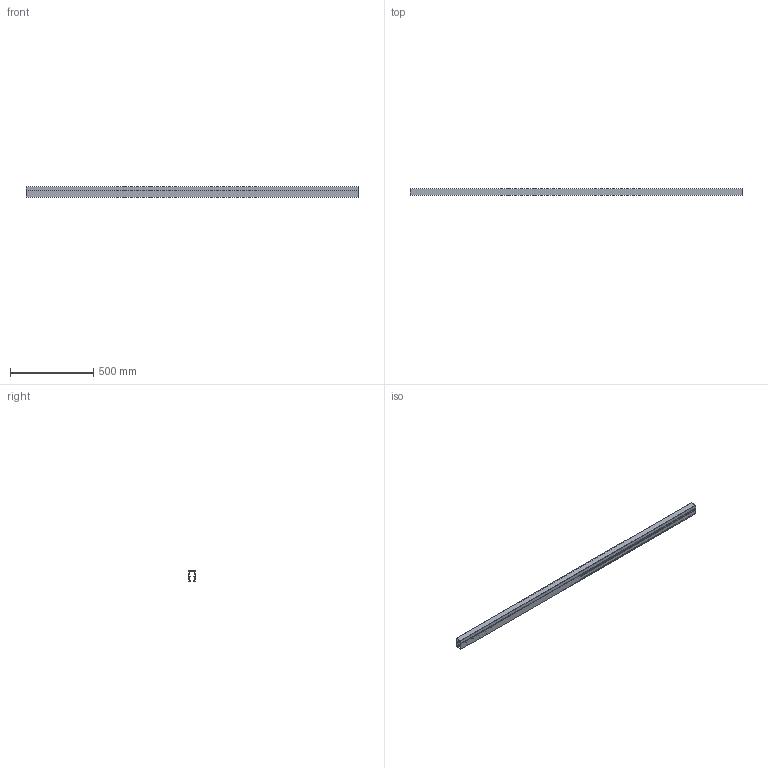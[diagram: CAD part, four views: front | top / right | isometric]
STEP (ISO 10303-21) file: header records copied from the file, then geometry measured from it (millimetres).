
FILE_DESCRIPTION(('STEP AP242'),'1');
FILE_NAME('OPO_65.084.01_volu_schn_3d.stp','2026-02-23T17:27:44',(' '),(' '),'Spatial InterOp 3D',' ',' ');
FILE_SCHEMA(('AP242_MANAGED_MODEL_BASED_3D_ENGINEERING_MIM_LF {1 0 10303 442 1 1 4}'));
Length unit declared in the file: millimetre
Products named in the file (1): 1
Bounding box: 2000 x 40 x 64.5 mm (x, y, z)
Volume: 1181500 mm3; surface area: 811748.6 mm2
Topology: 1 solids, 1 shells, 90 faces, 2742 edges, 5075 vertices
Faces by surface type: plane 70, cylinder 20
Entity records: 34063 total; most frequent: DIRECTION 3268, CARTESIAN_POINT 3260, STYLED_ITEM 2582, PRESENTATION_STYLE_ASSIGNMENT 2582, COLOUR_RGB 2582, COMPOSITE_CURVE 2492, CURVE_STYLE 2492, COMPOSITE_CURVE_SEGMENT 2492
